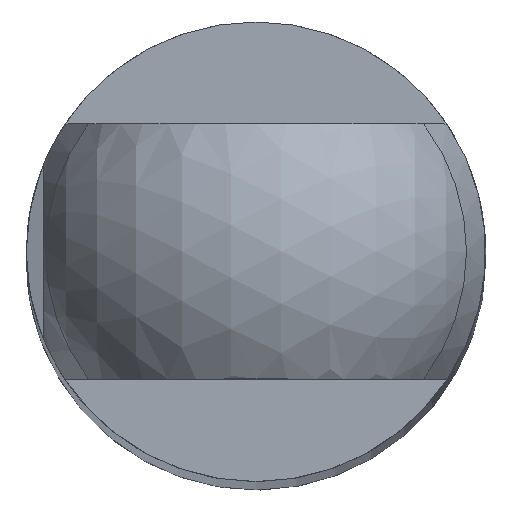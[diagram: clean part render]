
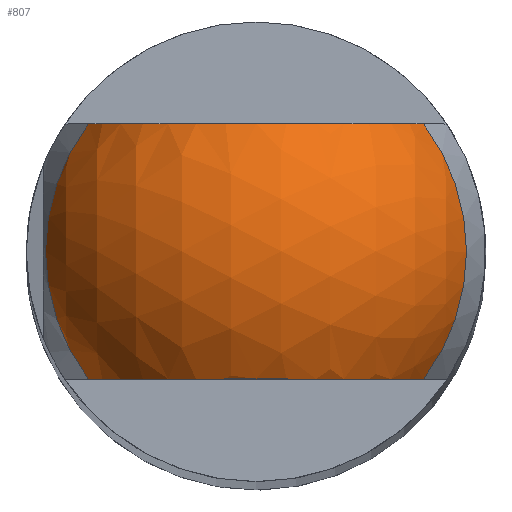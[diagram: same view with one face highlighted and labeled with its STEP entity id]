
A CAD part, top view. The second image highlights one B-rep face of the part: STEP entity #807.
In plain terms, the highlighted spherical face has radius 26 mm.
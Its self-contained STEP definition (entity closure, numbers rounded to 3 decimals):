
#31=SPHERICAL_SURFACE('',#899,26.);
#223=FACE_OUTER_BOUND('',#297,.T.);
#297=EDGE_LOOP('',(#633,#634,#635,#636));
#370=CIRCLE('',#892,21.237);
#372=CIRCLE('',#896,21.237);
#374=CIRCLE('',#900,24.741);
#375=CIRCLE('',#901,24.741);
#425=VERTEX_POINT('',#1309);
#426=VERTEX_POINT('',#1313);
#431=VERTEX_POINT('',#1328);
#432=VERTEX_POINT('',#1332);
#503=EDGE_CURVE('',#426,#425,#370,.T.);
#510=EDGE_CURVE('',#432,#431,#372,.T.);
#513=EDGE_CURVE('',#425,#432,#374,.T.);
#514=EDGE_CURVE('',#431,#426,#375,.T.);
#633=ORIENTED_EDGE('',*,*,#503,.T.);
#634=ORIENTED_EDGE('',*,*,#513,.T.);
#635=ORIENTED_EDGE('',*,*,#510,.T.);
#636=ORIENTED_EDGE('',*,*,#514,.T.);
#807=ADVANCED_FACE('',(#223),#31,.T.);
#892=AXIS2_PLACEMENT_3D('',#1314,#1054,#1055);
#896=AXIS2_PLACEMENT_3D('',#1333,#1065,#1066);
#899=AXIS2_PLACEMENT_3D('',#1339,#1071,#1072);
#900=AXIS2_PLACEMENT_3D('',#1340,#1073,#1074);
#901=AXIS2_PLACEMENT_3D('',#1341,#1075,#1076);
#1054=DIRECTION('center_axis',(0.,1.,0.));
#1055=DIRECTION('ref_axis',(0.,0.,-1.));
#1065=DIRECTION('center_axis',(0.,-1.,0.));
#1066=DIRECTION('ref_axis',(0.,0.,1.));
#1071=DIRECTION('center_axis',(0.,0.,1.));
#1072=DIRECTION('ref_axis',(1.,0.,0.));
#1073=DIRECTION('center_axis',(-1.,0.,0.));
#1074=DIRECTION('ref_axis',(0.,0.,1.));
#1075=DIRECTION('center_axis',(-1.,0.,0.));
#1076=DIRECTION('ref_axis',(0.,0.,1.));
#1309=CARTESIAN_POINT('',(-26.993,-15.,19.675));
#1313=CARTESIAN_POINT('',(-26.993,-15.,-19.675));
#1314=CARTESIAN_POINT('Origin',(-19.,-15.,0.));
#1328=CARTESIAN_POINT('',(-26.993,15.,-19.675));
#1332=CARTESIAN_POINT('',(-26.993,15.,19.675));
#1333=CARTESIAN_POINT('Origin',(-19.,15.,0.));
#1339=CARTESIAN_POINT('Origin',(-19.,0.,0.));
#1340=CARTESIAN_POINT('Origin',(-26.993,0.,0.));
#1341=CARTESIAN_POINT('Origin',(-26.993,0.,0.));
